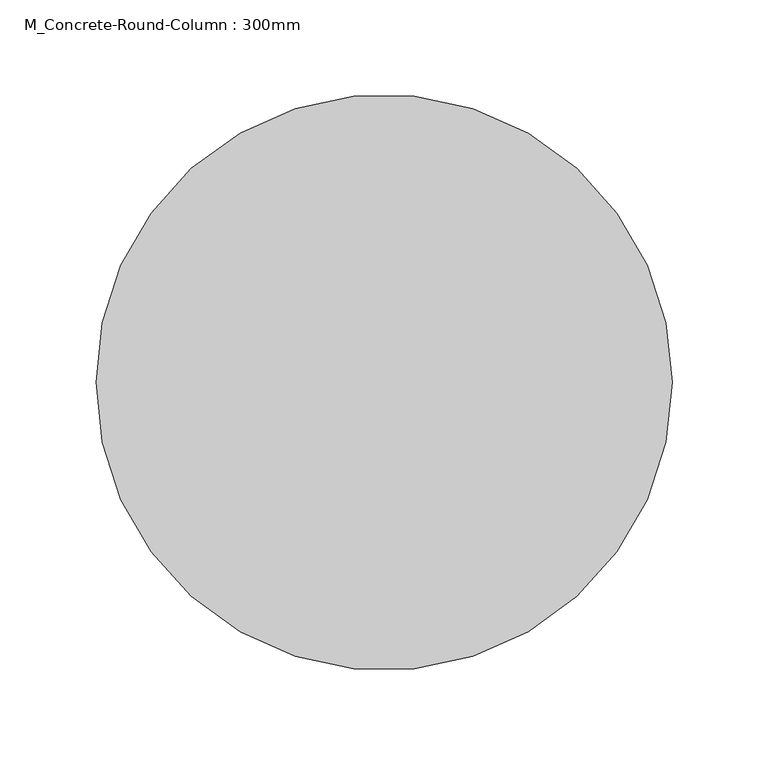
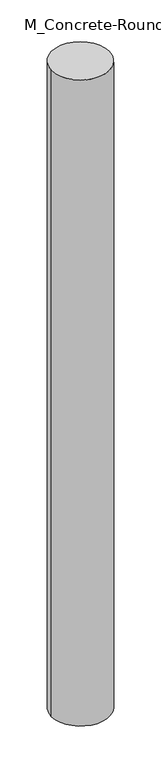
"""IFC4 building model written with IfcOpenShell, lengths in millimetres: column geometry, M_Concrete-Round-Column : 300mm."""

from ifc_helpers import new_model, si_unit, point, frame, origin, origin_2d, place, context, project, spatial, circle_curve, trimmed, segment, composite_curve, outline, extrude, source, transform, mapped, element, save


def m_concrete_round_column_300mm_4ff81acd(model_context):
    return source(origin(), model_context, "Body", "SweptSolid", [
        extrude(outline(composite_curve([segment(trimmed(circle_curve(origin_2d(), 150.0), [point((-150.0, 0.0))], [point((150.0, 0.0))], False, "CARTESIAN"), True, "CONTINUOUS"), segment(trimmed(circle_curve(origin_2d(), 150.0), [point((150.0, 0.0))], [point((-150.0, 0.0))], False, "CARTESIAN"), True, "CONTINUOUS")], self_intersect=False)), frame((0.0, 0.0, 7800.0), z_axis=(0.0, 0.0, 1.0), x_axis=(1.0, 0.0, 0.0)), (0.0, 0.0, 1.0), 3550.0),
    ])


if __name__ == "__main__":
    model = new_model("IFC4")
    model_context = context("Model", 3, world=origin())
    ifc_project = project(units=[si_unit("LENGTHUNIT", "METRE", prefix="MILLI")], contexts=[model_context])
    site = spatial("IfcSite", under=ifc_project)
    building = spatial("IfcBuilding", under=site)
    placement = place(None, origin())
    m_concrete_round_column_300mm_shape = m_concrete_round_column_300mm_4ff81acd(model_context)
    element("IfcColumn", 1, ObjectType="M_Concrete-Round-Column : 300mm", at=placement, inside=building, context=model_context, shape_type="MappedRepresentation", body=[
        mapped(m_concrete_round_column_300mm_shape, transform((0.0, 0.0, 0.0), x_axis=(1.0, 0.0, 0.0), y_axis=(0.0, 1.0, 0.0), z_axis=(0.0, 0.0, 1.0))),
    ])
    save(model, "model.ifc")
